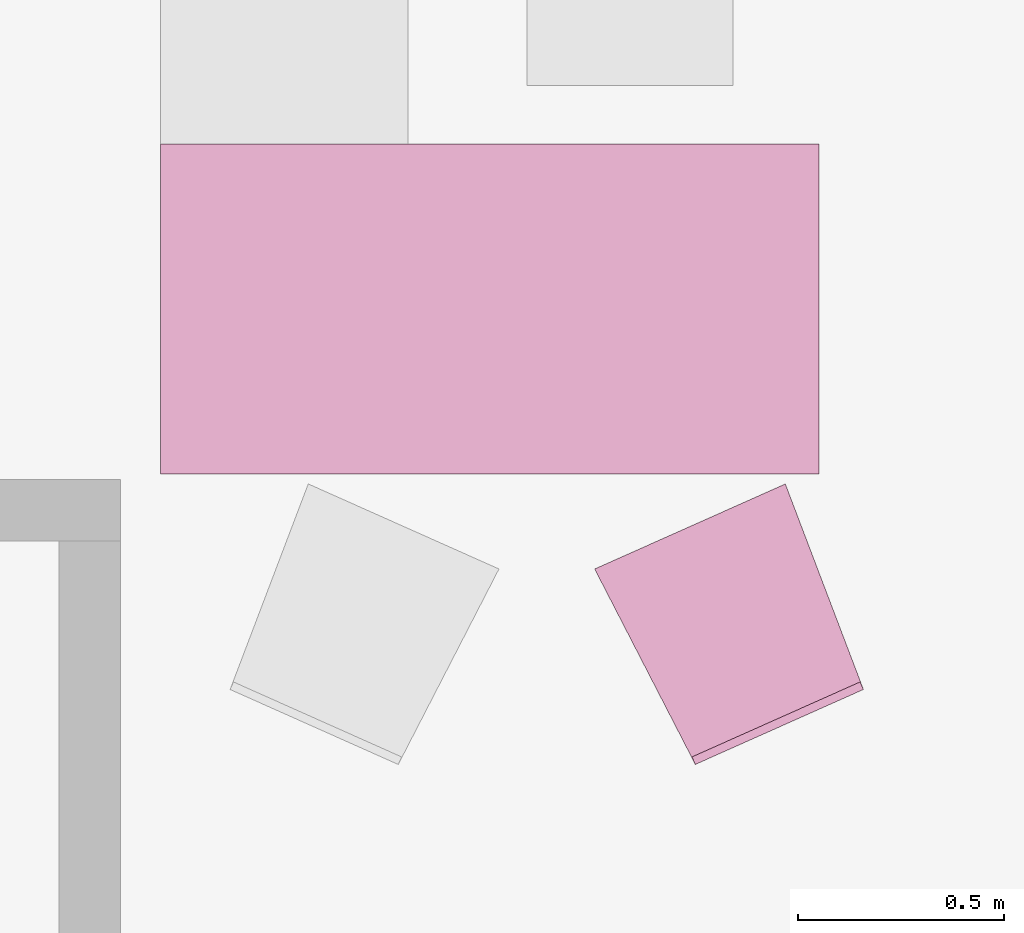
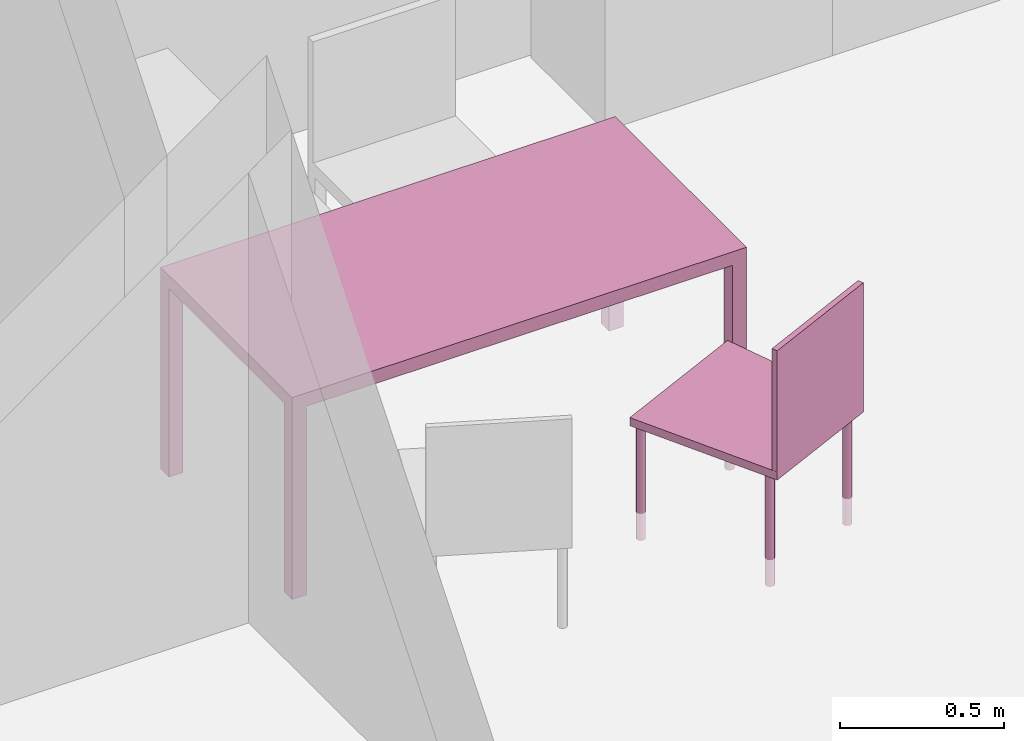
"""IFC4 building model written with IfcOpenShell, lengths in metres."""

from ifc_helpers import new_model, entity, si_unit, converted_unit, derived_unit, frame, origin, place, context, subcontext, project, spatial, faceted_brep, element, save


model = new_model("IFC4")

# Units and contexts
model_context = context("Model", 3, precision=1e-05, world=origin())
body_context = subcontext(model_context, "Body", "Model", "MODEL_VIEW")
ifc_project = project(units=[si_unit("LENGTHUNIT", "METRE"), si_unit("AREAUNIT", "SQUARE_METRE"), si_unit("VOLUMEUNIT", "CUBIC_METRE"), si_unit("MASSUNIT", "GRAM", prefix="KILO"), converted_unit("PLANEANGLEUNIT", "DEGREE", entity("IfcPlaneAngleMeasure", 0.0174532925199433), si_unit("PLANEANGLEUNIT", "RADIAN"), dimensions=[0, 0, 0, 0, 0, 0, 0]), derived_unit("THERMALTRANSMITTANCEUNIT", [(si_unit("POWERUNIT", "WATT"), 1), (si_unit("THERMODYNAMICTEMPERATUREUNIT", "KELVIN"), -1), (si_unit("LENGTHUNIT", "METRE"), -2)]), derived_unit("VOLUMETRICFLOWRATEUNIT", [(si_unit("LENGTHUNIT", "METRE"), 3), (converted_unit("TIMEUNIT", "hour", entity("IfcTimeMeasure", 3600.0), si_unit("TIMEUNIT", "SECOND"), dimensions=[0, 0, 1, 0, 0, 0, 0]), -1), (si_unit("LENGTHUNIT", "METRE"), -1)])], contexts=[model_context])

# Building, storeys
building_placement = place(None, origin())
building = spatial("IfcBuilding", under=ifc_project, at=building_placement, Name="HABITATGE PLURIFAMILIAR", CompositionType="ELEMENT")
storey_1_placement = place(building_placement, frame((0.0, 0.0, 12.27)))
storey_1 = spatial("IfcBuildingStorey", under=building, at=storey_1_placement, Name="PLANTA TERCERA", CompositionType="ELEMENT", Elevation=12.27)
storey_2_placement = place(storey_1_placement, frame((0.0, 0.0, 9.26)))
storey_2 = spatial("IfcBuildingStorey", under=storey_1, at=storey_2_placement, Name="NOU", CompositionType="PARTIAL")

# Furniture
furniture_1_placement = place(storey_2_placement, frame((421.603999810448, 26.0529516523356, -9.3599999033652)))
element("IfcFurniture", 1, at=furniture_1_placement, inside=storey_2, Name="Taula 160X80_P3", context=body_context, shape_type="Brep", body=[
    faceted_brep([(1.546945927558, 0.05, 0.0), (1.546945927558, 0.0, 0.0), (1.596945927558, 0.0, 0.0), (1.596945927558, 0.05, 0.0), (1.546945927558, 0.0, 0.7), (1.546945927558, 0.05, 0.7), (1.596945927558, 0.05, 0.7), (1.596945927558, 0.0, 0.7)], [[[0, 1, 2, 3]], [[4, 5, 6, 7]], [[1, 0, 5, 4]], [[2, 1, 4, 7]], [[3, 2, 7, 6]], [[0, 3, 6, 5]]], orient=[[False], [False], [False], [False], [False], [False]]),
    faceted_brep([(1.546945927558, 0.800069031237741, 0.0), (1.546945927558, 0.750069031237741, 0.0), (1.596945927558, 0.750069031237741, 0.0), (1.596945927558, 0.800069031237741, 0.0), (1.546945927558, 0.750069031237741, 0.7), (1.546945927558, 0.800069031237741, 0.7), (1.596945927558, 0.800069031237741, 0.7), (1.596945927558, 0.750069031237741, 0.7)], [[[0, 1, 2, 3]], [[4, 5, 6, 7]], [[1, 0, 5, 4]], [[2, 1, 4, 7]], [[3, 2, 7, 6]], [[0, 3, 6, 5]]], orient=[[False], [False], [False], [False], [False], [False]]),
    faceted_brep([(0.0, 0.800069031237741, 0.7), (0.0, 0.0, 0.7), (1.596945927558, 0.0, 0.7), (1.596945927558, 0.800069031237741, 0.7), (0.0, 0.0, 0.75), (0.0, 0.800069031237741, 0.75), (1.596945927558, 0.800069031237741, 0.75), (1.596945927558, 0.0, 0.75)], [[[0, 1, 2, 3]], [[4, 5, 6, 7]], [[1, 0, 5, 4]], [[2, 1, 4, 7]], [[3, 2, 7, 6]], [[0, 3, 6, 5]]], orient=[[False], [False], [False], [False], [False], [False]]),
    faceted_brep([(0.0, 0.05, 0.0), (0.0, 0.0, 0.0), (0.05, 0.0, 0.0), (0.05, 0.05, 0.0), (0.0, 0.0, 0.7), (0.0, 0.05, 0.7), (0.05, 0.05, 0.7), (0.05, 0.0, 0.7)], [[[0, 1, 2, 3]], [[4, 5, 6, 7]], [[1, 0, 5, 4]], [[2, 1, 4, 7]], [[3, 2, 7, 6]], [[0, 3, 6, 5]]], orient=[[False], [False], [False], [False], [False], [False]]),
    faceted_brep([(0.0, 0.800069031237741, 0.0), (0.0, 0.750069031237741, 0.0), (0.05, 0.750069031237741, 0.0), (0.05, 0.800069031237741, 0.0), (0.0, 0.750069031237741, 0.7), (0.0, 0.800069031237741, 0.7), (0.05, 0.800069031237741, 0.7), (0.05, 0.750069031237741, 0.7)], [[[0, 1, 2, 3]], [[4, 5, 6, 7]], [[1, 0, 5, 4]], [[2, 1, 4, 7]], [[3, 2, 7, 6]], [[0, 3, 6, 5]]], orient=[[False], [False], [False], [False], [False], [False]]),
])
furniture_2_placement = place(storey_2_placement, frame((422.657153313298, 25.3478744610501, -9.36074913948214)))
element("IfcFurniture", 2, at=furniture_2_placement, inside=storey_2, Name="Cadira confident_P3", context=body_context, shape_type="Brep", body=[
    faceted_brep([(0.464336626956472, 0.653812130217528, 0.0), (0.463071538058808, 0.656088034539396, 0.0), (0.461430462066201, 0.658109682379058, 0.0), (0.459463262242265, 0.659815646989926, 0.0), (0.4572297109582, 0.661154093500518, 0.0), (0.454797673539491, 0.662084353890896, 0.0), (0.452241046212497, 0.662578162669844, 0.0), (0.449637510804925, 0.662620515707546, 0.0), (0.447066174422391, 0.662210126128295, 0.0), (0.444605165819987, 0.661359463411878, 0.0), (0.442329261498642, 0.660094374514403, 0.0), (0.440307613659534, 0.658453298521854, 0.0), (0.438601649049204, 0.656486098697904, 0.0), (0.437263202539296, 0.654252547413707, 0.0), (0.436332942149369, 0.651820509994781, 0.0), (0.435839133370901, 0.64926388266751, 0.0), (0.435796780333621, 0.646660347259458, 0.0), (0.436207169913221, 0.644089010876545, 0.0), (0.437057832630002, 0.641628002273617, 0.0), (0.438322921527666, 0.639352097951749, 0.0), (0.439963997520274, 0.637330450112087, 0.0), (0.441931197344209, 0.635624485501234, 0.0), (0.444164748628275, 0.634286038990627, 0.0), (0.446596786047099, 0.633355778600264, 0.0), (0.449153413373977, 0.632861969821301, 0.0), (0.451756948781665, 0.632819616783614, 0.0), (0.4543282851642, 0.633230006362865, 0.0), (0.456789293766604, 0.634080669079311, 0.0), (0.459065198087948, 0.635345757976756, 0.0), (0.461086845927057, 0.636986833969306, 0.0), (0.46279281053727, 0.638954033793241, 0.0), (0.464131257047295, 0.641187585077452, 0.0), (0.465061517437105, 0.643619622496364, 0.0), (0.465555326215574, 0.646176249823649, 0.0), (0.465597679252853, 0.648779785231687, 0.0), (0.465187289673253, 0.6513511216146, 0.0), (0.464336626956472, 0.653812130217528, 0.448281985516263), (0.465187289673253, 0.6513511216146, 0.448281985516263), (0.465597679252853, 0.648779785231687, 0.448281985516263), (0.465555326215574, 0.646176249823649, 0.448281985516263), (0.465061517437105, 0.643619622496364, 0.448281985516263), (0.464131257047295, 0.641187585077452, 0.448281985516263), (0.46279281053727, 0.638954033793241, 0.448281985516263), (0.461086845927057, 0.636986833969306, 0.448281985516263), (0.459065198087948, 0.635345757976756, 0.448281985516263), (0.456789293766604, 0.634080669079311, 0.448281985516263), (0.4543282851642, 0.633230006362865, 0.448281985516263), (0.451756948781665, 0.632819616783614, 0.448281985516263), (0.449153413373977, 0.632861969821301, 0.448281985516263), (0.446596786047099, 0.633355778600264, 0.448281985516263), (0.444164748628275, 0.634286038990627, 0.448281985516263), (0.441931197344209, 0.635624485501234, 0.448281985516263), (0.439963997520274, 0.637330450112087, 0.448281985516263), (0.438322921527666, 0.639352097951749, 0.448281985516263), (0.437057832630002, 0.641628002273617, 0.448281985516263), (0.436207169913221, 0.644089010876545, 0.448281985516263), (0.435796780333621, 0.646660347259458, 0.448281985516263), (0.435839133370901, 0.64926388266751, 0.448281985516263), (0.436332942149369, 0.651820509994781, 0.448281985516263), (0.437263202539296, 0.654252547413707, 0.448281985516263), (0.438601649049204, 0.656486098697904, 0.448281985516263), (0.440307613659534, 0.658453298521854, 0.448281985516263), (0.442329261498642, 0.660094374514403, 0.448281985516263), (0.444605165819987, 0.661359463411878, 0.448281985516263), (0.447066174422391, 0.662210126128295, 0.448281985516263), (0.449637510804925, 0.662620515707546, 0.448281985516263), (0.452241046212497, 0.662578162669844, 0.448281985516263), (0.454797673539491, 0.662084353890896, 0.448281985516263), (0.4572297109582, 0.661154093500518, 0.448281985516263), (0.459463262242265, 0.659815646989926, 0.448281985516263), (0.461430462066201, 0.658109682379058, 0.448281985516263), (0.463071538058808, 0.656088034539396, 0.448281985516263)], [[[0, 1, 2, 3, 4, 5, 6, 7, 8, 9, 10, 11, 12, 13, 14, 15, 16, 17, 18, 19, 20, 21, 22, 23, 24, 25, 26, 27, 28, 29, 30, 31, 32, 33, 34, 35]], [[36, 37, 38, 39, 40, 41, 42, 43, 44, 45, 46, 47, 48, 49, 50, 51, 52, 53, 54, 55, 56, 57, 58, 59, 60, 61, 62, 63, 64, 65, 66, 67, 68, 69, 70, 71]], [[35, 37, 36, 0]], [[34, 38, 37, 35]], [[33, 39, 38, 34]], [[32, 40, 39, 33]], [[31, 41, 40, 32]], [[30, 42, 41, 31]], [[29, 43, 42, 30]], [[28, 44, 43, 29]], [[27, 45, 44, 28]], [[26, 46, 45, 27]], [[25, 47, 46, 26]], [[24, 48, 47, 25]], [[23, 49, 48, 24]], [[22, 50, 49, 23]], [[21, 51, 50, 22]], [[20, 52, 51, 21]], [[19, 53, 52, 20]], [[18, 54, 53, 19]], [[17, 55, 54, 18]], [[16, 56, 55, 17]], [[15, 57, 56, 16]], [[14, 58, 57, 15]], [[13, 59, 58, 14]], [[12, 60, 59, 13]], [[11, 61, 60, 12]], [[10, 62, 61, 11]], [[9, 63, 62, 10]], [[8, 64, 63, 9]], [[7, 65, 64, 8]], [[6, 66, 65, 7]], [[5, 67, 66, 6]], [[4, 68, 67, 5]], [[3, 69, 68, 4]], [[2, 70, 69, 3]], [[1, 71, 70, 2]], [[0, 36, 71, 1]]], orient=[[False], [False], [False], [False], [False], [False], [False], [False], [False], [False], [False], [False], [False], [False], [False], [False], [False], [False], [False], [False], [False], [False], [False], [False], [False], [False], [False], [False], [False], [False], [False], [False], [False], [False], [False], [False], [False], [False]]),
    faceted_brep([(0.627425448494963, 0.220238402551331, 0.0), (0.626160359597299, 0.2225143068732, 0.0), (0.624519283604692, 0.224535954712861, 0.0), (0.622552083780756, 0.2262419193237, 0.0), (0.620318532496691, 0.227580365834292, 0.0), (0.617886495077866, 0.228510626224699, 0.0), (0.615329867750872, 0.229004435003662, 0.0), (0.6127263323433, 0.229046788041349, 0.0), (0.610154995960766, 0.228636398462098, 0.0), (0.607693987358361, 0.227785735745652, 0.0), (0.605418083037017, 0.226520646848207, 0.0), (0.603396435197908, 0.224879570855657, 0.0), (0.601690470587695, 0.222912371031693, 0.0), (0.600352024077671, 0.220678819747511, 0.0), (0.59942176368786, 0.218246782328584, 0.0), (0.598927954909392, 0.215690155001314, 0.0), (0.598885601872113, 0.213086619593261, 0.0), (0.599295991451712, 0.210515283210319, 0.0), (0.600146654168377, 0.208054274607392, 0.0), (0.601411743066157, 0.205778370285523, 0.0), (0.603052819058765, 0.203756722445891, 0.0), (0.6050200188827, 0.202050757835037, 0.0), (0.607253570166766, 0.200712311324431, 0.0), (0.609685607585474, 0.199782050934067, 0.0), (0.612242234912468, 0.199288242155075, 0.0), (0.61484577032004, 0.199245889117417, 0.0), (0.617417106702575, 0.199656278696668, 0.0), (0.619878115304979, 0.200506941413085, 0.0), (0.622154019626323, 0.20177203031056, 0.0), (0.624175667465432, 0.203413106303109, 0.0), (0.625881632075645, 0.205380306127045, 0.0), (0.627220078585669, 0.207613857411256, 0.0), (0.628150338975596, 0.210045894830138, 0.0), (0.628644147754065, 0.212602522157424, 0.0), (0.628686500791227, 0.21520605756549, 0.0), (0.628276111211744, 0.217777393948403, 0.0), (0.627425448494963, 0.220238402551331, 0.448281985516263), (0.628276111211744, 0.217777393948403, 0.448281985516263), (0.628686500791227, 0.21520605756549, 0.448281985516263), (0.628644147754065, 0.212602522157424, 0.448281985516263), (0.628150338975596, 0.210045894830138, 0.448281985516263), (0.627220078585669, 0.207613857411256, 0.448281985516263), (0.625881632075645, 0.205380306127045, 0.448281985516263), (0.624175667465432, 0.203413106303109, 0.448281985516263), (0.622154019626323, 0.20177203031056, 0.448281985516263), (0.619878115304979, 0.200506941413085, 0.448281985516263), (0.617417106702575, 0.199656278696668, 0.448281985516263), (0.61484577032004, 0.199245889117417, 0.448281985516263), (0.612242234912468, 0.199288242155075, 0.448281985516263), (0.609685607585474, 0.199782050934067, 0.448281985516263), (0.607253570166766, 0.200712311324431, 0.448281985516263), (0.6050200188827, 0.202050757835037, 0.448281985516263), (0.603052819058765, 0.203756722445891, 0.448281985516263), (0.601411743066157, 0.205778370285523, 0.448281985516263), (0.600146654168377, 0.208054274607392, 0.448281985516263), (0.599295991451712, 0.210515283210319, 0.448281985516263), (0.598885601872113, 0.213086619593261, 0.448281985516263), (0.598927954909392, 0.215690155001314, 0.448281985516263), (0.59942176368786, 0.218246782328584, 0.448281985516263), (0.600352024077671, 0.220678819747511, 0.448281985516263), (0.601690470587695, 0.222912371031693, 0.448281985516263), (0.603396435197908, 0.224879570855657, 0.448281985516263), (0.605418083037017, 0.226520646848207, 0.448281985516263), (0.607693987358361, 0.227785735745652, 0.448281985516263), (0.610154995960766, 0.228636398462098, 0.448281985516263), (0.6127263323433, 0.229046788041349, 0.448281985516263), (0.615329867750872, 0.229004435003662, 0.448281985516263), (0.617886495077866, 0.228510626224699, 0.448281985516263), (0.620318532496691, 0.227580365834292, 0.448281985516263), (0.622552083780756, 0.2262419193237, 0.448281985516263), (0.624519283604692, 0.224535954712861, 0.448281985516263), (0.626160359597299, 0.2225143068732, 0.448281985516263)], [[[0, 1, 2, 3, 4, 5, 6, 7, 8, 9, 10, 11, 12, 13, 14, 15, 16, 17, 18, 19, 20, 21, 22, 23, 24, 25, 26, 27, 28, 29, 30, 31, 32, 33, 34, 35]], [[36, 37, 38, 39, 40, 41, 42, 43, 44, 45, 46, 47, 48, 49, 50, 51, 52, 53, 54, 55, 56, 57, 58, 59, 60, 61, 62, 63, 64, 65, 66, 67, 68, 69, 70, 71]], [[35, 37, 36, 0]], [[34, 38, 37, 35]], [[33, 39, 38, 34]], [[32, 40, 39, 33]], [[31, 41, 40, 32]], [[30, 42, 41, 31]], [[29, 43, 42, 30]], [[28, 44, 43, 29]], [[27, 45, 44, 28]], [[26, 46, 45, 27]], [[25, 47, 46, 26]], [[24, 48, 47, 25]], [[23, 49, 48, 24]], [[22, 50, 49, 23]], [[21, 51, 50, 22]], [[20, 52, 51, 21]], [[19, 53, 52, 20]], [[18, 54, 53, 19]], [[17, 55, 54, 18]], [[16, 56, 55, 17]], [[15, 57, 56, 16]], [[14, 58, 57, 15]], [[13, 59, 58, 14]], [[12, 60, 59, 13]], [[11, 61, 60, 12]], [[10, 62, 61, 11]], [[9, 63, 62, 10]], [[8, 64, 63, 9]], [[7, 65, 64, 8]], [[6, 66, 65, 7]], [[5, 67, 66, 6]], [[4, 68, 67, 5]], [[3, 69, 68, 4]], [[2, 70, 69, 3]], [[1, 71, 70, 2]], [[0, 36, 71, 1]]], orient=[[False], [False], [False], [False], [False], [False], [False], [False], [False], [False], [False], [False], [False], [False], [False], [False], [False], [False], [False], [False], [False], [False], [False], [False], [False], [False], [False], [False], [False], [False], [False], [False], [False], [False], [False], [False], [False], [False]]),
    faceted_brep([(0.044217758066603, 0.466461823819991, 0.0), (0.0429526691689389, 0.468737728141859, 0.0), (0.0413115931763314, 0.470759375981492, 0.0), (0.0393443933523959, 0.472465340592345, 0.0), (0.0371108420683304, 0.473803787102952, 0.0), (0.0346788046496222, 0.474734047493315, 0.0), (0.032122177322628, 0.475227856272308, 0.0), (0.0295186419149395, 0.475270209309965, 0.0), (0.0269473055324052, 0.474859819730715, 0.0), (0.0244862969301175, 0.474009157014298, 0.0), (0.022210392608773, 0.472744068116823, 0.0), (0.0201887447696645, 0.471102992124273, 0.0), (0.0184827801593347, 0.469135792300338, 0.0), (0.0171443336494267, 0.466902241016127, 0.0), (0.0162140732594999, 0.464470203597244, 0.0), (0.0157202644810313, 0.461913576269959, 0.0), (0.0156779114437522, 0.459310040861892, 0.0), (0.016088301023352, 0.456738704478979, 0.0), (0.0169389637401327, 0.454277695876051, 0.0), (0.0182040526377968, 0.452001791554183, 0.0), (0.0198451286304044, 0.449980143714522, 0.0), (0.0218123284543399, 0.448274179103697, 0.0), (0.0240458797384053, 0.44693573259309, 0.0), (0.02647791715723, 0.446005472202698, 0.0), (0.0290345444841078, 0.445511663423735, 0.0), (0.0316380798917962, 0.445469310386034, 0.0), (0.0342094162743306, 0.445879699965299, 0.0), (0.0366704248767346, 0.44673036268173, 0.0), (0.0389463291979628, 0.447995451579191, 0.0), (0.0409679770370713, 0.449636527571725, 0.0), (0.0426739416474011, 0.451603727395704, 0.0), (0.0440123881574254, 0.453837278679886, 0.0), (0.0449426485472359, 0.456269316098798, 0.0), (0.0454364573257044, 0.458825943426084, 0.0), (0.0454788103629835, 0.461429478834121, 0.0), (0.0450684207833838, 0.464000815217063, 0.0), (0.044217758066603, 0.466461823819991, 0.448281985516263), (0.0450684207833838, 0.464000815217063, 0.448281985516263), (0.0454788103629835, 0.461429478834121, 0.448281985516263), (0.0454364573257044, 0.458825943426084, 0.448281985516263), (0.0449426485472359, 0.456269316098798, 0.448281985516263), (0.0440123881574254, 0.453837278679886, 0.448281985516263), (0.0426739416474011, 0.451603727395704, 0.448281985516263), (0.0409679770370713, 0.449636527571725, 0.448281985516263), (0.0389463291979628, 0.447995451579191, 0.448281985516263), (0.0366704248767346, 0.44673036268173, 0.448281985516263), (0.0342094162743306, 0.445879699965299, 0.448281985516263), (0.0316380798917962, 0.445469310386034, 0.448281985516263), (0.0290345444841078, 0.445511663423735, 0.448281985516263), (0.02647791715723, 0.446005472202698, 0.448281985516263), (0.0240458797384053, 0.44693573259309, 0.448281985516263), (0.0218123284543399, 0.448274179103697, 0.448281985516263), (0.0198451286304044, 0.449980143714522, 0.448281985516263), (0.0182040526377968, 0.452001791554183, 0.448281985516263), (0.0169389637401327, 0.454277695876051, 0.448281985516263), (0.016088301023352, 0.456738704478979, 0.448281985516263), (0.0156779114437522, 0.459310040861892, 0.448281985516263), (0.0157202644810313, 0.461913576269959, 0.448281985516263), (0.0162140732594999, 0.464470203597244, 0.448281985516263), (0.0171443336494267, 0.466902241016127, 0.448281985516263), (0.0184827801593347, 0.469135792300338, 0.448281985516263), (0.0201887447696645, 0.471102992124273, 0.448281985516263), (0.022210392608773, 0.472744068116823, 0.448281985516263), (0.0244862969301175, 0.474009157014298, 0.448281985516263), (0.0269473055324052, 0.474859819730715, 0.448281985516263), (0.0295186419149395, 0.475270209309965, 0.448281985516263), (0.032122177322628, 0.475227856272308, 0.448281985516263), (0.0346788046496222, 0.474734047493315, 0.448281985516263), (0.0371108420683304, 0.473803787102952, 0.448281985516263), (0.0393443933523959, 0.472465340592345, 0.448281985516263), (0.0413115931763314, 0.470759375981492, 0.448281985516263), (0.0429526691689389, 0.468737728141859, 0.448281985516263)], [[[0, 1, 2, 3, 4, 5, 6, 7, 8, 9, 10, 11, 12, 13, 14, 15, 16, 17, 18, 19, 20, 21, 22, 23, 24, 25, 26, 27, 28, 29, 30, 31, 32, 33, 34, 35]], [[36, 37, 38, 39, 40, 41, 42, 43, 44, 45, 46, 47, 48, 49, 50, 51, 52, 53, 54, 55, 56, 57, 58, 59, 60, 61, 62, 63, 64, 65, 66, 67, 68, 69, 70, 71]], [[35, 37, 36, 0]], [[34, 38, 37, 35]], [[33, 39, 38, 34]], [[32, 40, 39, 33]], [[31, 41, 40, 32]], [[30, 42, 41, 31]], [[29, 43, 42, 30]], [[28, 44, 43, 29]], [[27, 45, 44, 28]], [[26, 46, 45, 27]], [[25, 47, 46, 26]], [[24, 48, 47, 25]], [[23, 49, 48, 24]], [[22, 50, 49, 23]], [[21, 51, 50, 22]], [[20, 52, 51, 21]], [[19, 53, 52, 20]], [[18, 54, 53, 19]], [[17, 55, 54, 18]], [[16, 56, 55, 17]], [[15, 57, 56, 16]], [[14, 58, 57, 15]], [[13, 59, 58, 14]], [[12, 60, 59, 13]], [[11, 61, 60, 12]], [[10, 62, 61, 11]], [[9, 63, 62, 10]], [[8, 64, 63, 9]], [[7, 65, 64, 8]], [[6, 66, 65, 7]], [[5, 67, 66, 6]], [[4, 68, 67, 5]], [[3, 69, 68, 4]], [[2, 70, 69, 3]], [[1, 71, 70, 2]], [[0, 36, 71, 1]]], orient=[[False], [False], [False], [False], [False], [False], [False], [False], [False], [False], [False], [False], [False], [False], [False], [False], [False], [False], [False], [False], [False], [False], [False], [False], [False], [False], [False], [False], [False], [False], [False], [False], [False], [False], [False], [False], [False], [False]]),
    faceted_brep([(0.262104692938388, 0.0573250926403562, 0.0), (0.260839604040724, 0.0596009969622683, 0.0), (0.259198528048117, 0.0616226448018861, 0.0), (0.257231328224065, 0.0633286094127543, 0.0), (0.254997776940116, 0.0646670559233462, 0.0), (0.252565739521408, 0.0655973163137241, 0.0), (0.250009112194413, 0.0660911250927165, 0.0), (0.247405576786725, 0.0661334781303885, 0.0), (0.24483424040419, 0.0657230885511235, 0.0), (0.242373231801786, 0.0648724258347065, 0.0), (0.240097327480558, 0.0636073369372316, 0.0), (0.238075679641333, 0.0619662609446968, 0.0), (0.23636971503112, 0.0599990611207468, 0.0), (0.235031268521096, 0.0577655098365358, 0.0), (0.234101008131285, 0.0553334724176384, 0.0), (0.233607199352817, 0.0527768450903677, 0.0), (0.233564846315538, 0.0501733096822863, 0.0), (0.233975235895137, 0.0476019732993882, 0.0), (0.234825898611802, 0.0451409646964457, 0.0), (0.236090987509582, 0.0428650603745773, 0.0), (0.23773206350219, 0.0408434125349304, 0.0), (0.239699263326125, 0.0391374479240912, 0.0), (0.241932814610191, 0.0377990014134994, 0.0), (0.244364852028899, 0.0368687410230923, 0.0), (0.246921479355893, 0.036374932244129, 0.0), (0.249525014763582, 0.0363325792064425, 0.0), (0.252096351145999, 0.0367429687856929, 0.0), (0.25455735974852, 0.0375936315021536, 0.0), (0.256833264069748, 0.0388587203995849, 0.0), (0.258854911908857, 0.0404997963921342, 0.0), (0.26056087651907, 0.0424669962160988, 0.0), (0.261899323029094, 0.0447005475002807, 0.0), (0.262829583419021, 0.0471325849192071, 0.0), (0.26332339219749, 0.0496892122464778, 0.0), (0.263365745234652, 0.0522927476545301, 0.0), (0.262955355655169, 0.0548640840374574, 0.0), (0.262104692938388, 0.0573250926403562, 0.448281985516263), (0.262955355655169, 0.0548640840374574, 0.448281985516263), (0.263365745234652, 0.0522927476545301, 0.448281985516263), (0.26332339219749, 0.0496892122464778, 0.448281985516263), (0.262829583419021, 0.0471325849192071, 0.448281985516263), (0.261899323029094, 0.0447005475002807, 0.448281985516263), (0.26056087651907, 0.0424669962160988, 0.448281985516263), (0.258854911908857, 0.0404997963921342, 0.448281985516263), (0.256833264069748, 0.0388587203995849, 0.448281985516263), (0.25455735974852, 0.0375936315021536, 0.448281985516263), (0.252096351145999, 0.0367429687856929, 0.448281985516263), (0.249525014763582, 0.0363325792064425, 0.448281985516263), (0.246921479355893, 0.036374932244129, 0.448281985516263), (0.244364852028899, 0.0368687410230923, 0.448281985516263), (0.241932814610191, 0.0377990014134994, 0.448281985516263), (0.239699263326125, 0.0391374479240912, 0.448281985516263), (0.23773206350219, 0.0408434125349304, 0.448281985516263), (0.236090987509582, 0.0428650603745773, 0.448281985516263), (0.234825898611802, 0.0451409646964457, 0.448281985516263), (0.233975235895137, 0.0476019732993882, 0.448281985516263), (0.233564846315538, 0.0501733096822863, 0.448281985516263), (0.233607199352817, 0.0527768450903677, 0.448281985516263), (0.234101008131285, 0.0553334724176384, 0.448281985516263), (0.235031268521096, 0.0577655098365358, 0.448281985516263), (0.23636971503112, 0.0599990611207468, 0.448281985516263), (0.238075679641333, 0.0619662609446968, 0.448281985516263), (0.240097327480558, 0.0636073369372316, 0.448281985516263), (0.242373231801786, 0.0648724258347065, 0.448281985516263), (0.24483424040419, 0.0657230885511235, 0.448281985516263), (0.247405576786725, 0.0661334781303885, 0.448281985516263), (0.250009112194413, 0.0660911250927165, 0.448281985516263), (0.252565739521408, 0.0655973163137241, 0.448281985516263), (0.254997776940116, 0.0646670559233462, 0.448281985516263), (0.257231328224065, 0.0633286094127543, 0.448281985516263), (0.259198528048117, 0.0616226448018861, 0.448281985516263), (0.260839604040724, 0.0596009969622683, 0.448281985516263)], [[[0, 1, 2, 3, 4, 5, 6, 7, 8, 9, 10, 11, 12, 13, 14, 15, 16, 17, 18, 19, 20, 21, 22, 23, 24, 25, 26, 27, 28, 29, 30, 31, 32, 33, 34, 35]], [[36, 37, 38, 39, 40, 41, 42, 43, 44, 45, 46, 47, 48, 49, 50, 51, 52, 53, 54, 55, 56, 57, 58, 59, 60, 61, 62, 63, 64, 65, 66, 67, 68, 69, 70, 71]], [[35, 37, 36, 0]], [[34, 38, 37, 35]], [[33, 39, 38, 34]], [[32, 40, 39, 33]], [[31, 41, 40, 32]], [[30, 42, 41, 31]], [[29, 43, 42, 30]], [[28, 44, 43, 29]], [[27, 45, 44, 28]], [[26, 46, 45, 27]], [[25, 47, 46, 26]], [[24, 48, 47, 25]], [[23, 49, 48, 24]], [[22, 50, 49, 23]], [[21, 51, 50, 22]], [[20, 52, 51, 21]], [[19, 53, 52, 20]], [[18, 54, 53, 19]], [[17, 55, 54, 18]], [[16, 56, 55, 17]], [[15, 57, 56, 16]], [[14, 58, 57, 15]], [[13, 59, 58, 14]], [[12, 60, 59, 13]], [[11, 61, 60, 12]], [[10, 62, 61, 11]], [[9, 63, 62, 10]], [[8, 64, 63, 9]], [[7, 65, 64, 8]], [[6, 66, 65, 7]], [[5, 67, 66, 6]], [[4, 68, 67, 5]], [[3, 69, 68, 4]], [[2, 70, 69, 3]], [[1, 71, 70, 2]], [[0, 36, 71, 1]]], orient=[[False], [False], [False], [False], [False], [False], [False], [False], [False], [False], [False], [False], [False], [False], [False], [False], [False], [False], [False], [False], [False], [False], [False], [False], [False], [False], [False], [False], [False], [False], [False], [False], [False], [False], [False], [False], [False], [False]]),
    faceted_brep([(0.244321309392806, 0.0, 0.418281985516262), (0.652124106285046, 0.181858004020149, 0.418281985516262), (0.46260091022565, 0.680508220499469, 0.418281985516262), (0.0, 0.474213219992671, 0.418281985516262), (0.0, 0.474213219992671, 0.448281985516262), (0.46260091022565, 0.680508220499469, 0.448281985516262), (0.652124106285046, 0.181858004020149, 0.448281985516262), (0.244321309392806, 0.0, 0.448281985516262)], [[[0, 1, 2, 3]], [[4, 5, 6, 7]], [[3, 4, 7, 0]], [[2, 5, 4, 3]], [[1, 6, 5, 2]], [[0, 7, 6, 1]]], orient=[[False], [False], [False], [False], [False], [False]]),
    faceted_brep([(0.2361756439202, 0.0182660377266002, 0.448281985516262), (0.244321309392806, 0.0, 0.448281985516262), (0.652124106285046, 0.181858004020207, 0.448281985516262), (0.64397844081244, 0.200124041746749, 0.448281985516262), (0.64397844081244, 0.200124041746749, 0.89828198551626), (0.652124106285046, 0.181858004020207, 0.89828198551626), (0.244321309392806, 0.0, 0.89828198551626), (0.2361756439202, 0.0182660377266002, 0.89828198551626)], [[[0, 1, 2, 3]], [[4, 5, 6, 7]], [[3, 4, 7, 0]], [[2, 5, 4, 3]], [[1, 6, 5, 2]], [[0, 7, 6, 1]]], orient=[[False], [False], [False], [False], [False], [False]]),
])

save(model, "model.ifc")
